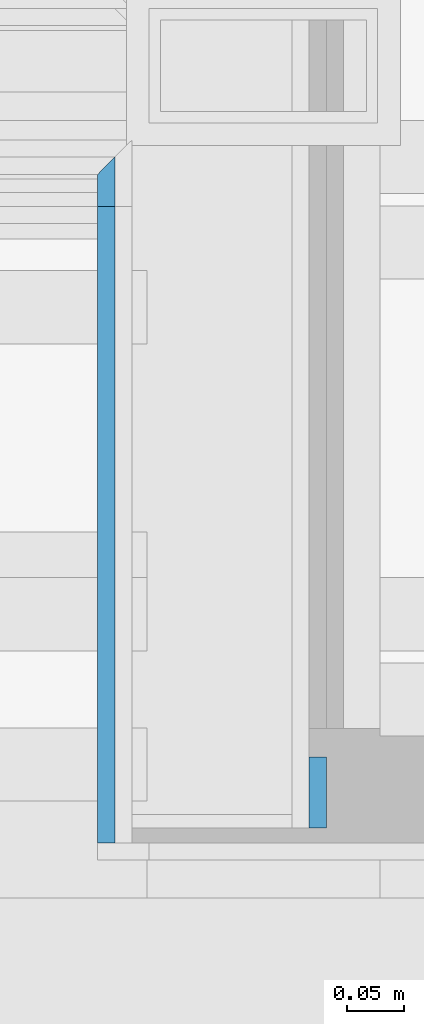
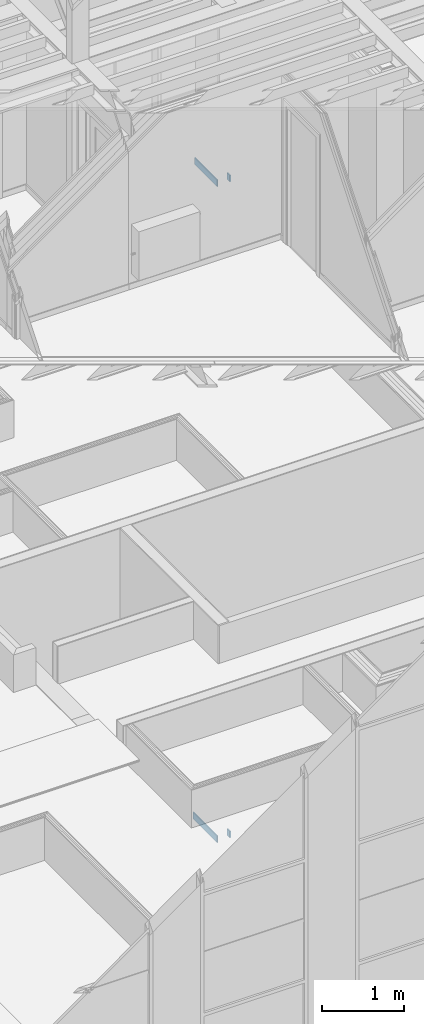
# One storey, part 67 of 183: 4 building element parts, 2 elements without a shape of their own.
"""IFC2X3 building model written with IfcOpenShell, lengths in metres."""

from ifc_helpers import new_model, entity, si_unit, converted_unit, derived_unit, money_unit, direction, frame, frame_2d, origin_with_axes, place, context, subcontext, project, spatial, polyline, rectangle, outline, extrude, material, type_object, element, aggregate, save


model = new_model("IFC2X3")

# Units and contexts
model_context = context("Model", 3, precision=1e-05, world=origin_with_axes(), true_north=direction((0.0, 1.0)))
body_context = subcontext(model_context, "Body", "Model", "MODEL_VIEW", scale=1.0)
ifc_project = project(units=[si_unit("LENGTHUNIT", "METRE"), si_unit("AREAUNIT", "SQUARE_METRE"), si_unit("VOLUMEUNIT", "CUBIC_METRE"), si_unit("ABSORBEDDOSEUNIT", "GRAY"), si_unit("AMOUNTOFSUBSTANCEUNIT", "MOLE"), si_unit("DOSEEQUIVALENTUNIT", "SIEVERT"), si_unit("ELECTRICCAPACITANCEUNIT", "FARAD"), si_unit("ELECTRICCHARGEUNIT", "COULOMB"), si_unit("ELECTRICCONDUCTANCEUNIT", "SIEMENS"), si_unit("ELECTRICCURRENTUNIT", "AMPERE"), si_unit("ELECTRICRESISTANCEUNIT", "OHM"), si_unit("ELECTRICVOLTAGEUNIT", "VOLT"), si_unit("ENERGYUNIT", "JOULE"), si_unit("FORCEUNIT", "NEWTON"), si_unit("FREQUENCYUNIT", "HERTZ"), si_unit("ILLUMINANCEUNIT", "LUX"), si_unit("INDUCTANCEUNIT", "HENRY"), si_unit("LUMINOUSFLUXUNIT", "LUMEN"), si_unit("LUMINOUSINTENSITYUNIT", "CANDELA"), si_unit("MAGNETICFLUXDENSITYUNIT", "TESLA"), si_unit("MAGNETICFLUXUNIT", "WEBER"), si_unit("MASSUNIT", "GRAM"), converted_unit("PLANEANGLEUNIT", "degree", entity("IfcReal", 0.0174532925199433), si_unit("PLANEANGLEUNIT", "RADIAN"), dimensions=[0, 0, 0, 0, 0, 0, 0]), si_unit("POWERUNIT", "WATT"), si_unit("PRESSUREUNIT", "PASCAL"), si_unit("RADIOACTIVITYUNIT", "BECQUEREL"), si_unit("SOLIDANGLEUNIT", "STERADIAN"), si_unit("THERMODYNAMICTEMPERATUREUNIT", "KELVIN"), si_unit("TIMEUNIT", "SECOND"), derived_unit("ACCELERATIONUNIT", [(si_unit("LENGTHUNIT", "METRE"), 1), (si_unit("TIMEUNIT", "SECOND"), -2)]), derived_unit("ANGULARVELOCITYUNIT", [(converted_unit("PLANEANGLEUNIT", "degree", entity("IfcReal", 0.0174532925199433), si_unit("PLANEANGLEUNIT", "RADIAN"), dimensions=[0, 0, 0, 0, 0, 0, 0]), 1), (si_unit("TIMEUNIT", "SECOND"), -1)]), derived_unit("CURVATUREUNIT", [(converted_unit("PLANEANGLEUNIT", "degree", entity("IfcReal", 0.0174532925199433), si_unit("PLANEANGLEUNIT", "RADIAN"), dimensions=[0, 0, 0, 0, 0, 0, 0]), 1), (si_unit("LENGTHUNIT", "METRE"), -1)]), derived_unit("DYNAMICVISCOSITYUNIT", [(si_unit("PRESSUREUNIT", "PASCAL"), 1), (si_unit("TIMEUNIT", "SECOND"), 1)]), derived_unit("HEATFLUXDENSITYUNIT", [(si_unit("POWERUNIT", "WATT"), 1), (si_unit("LENGTHUNIT", "METRE"), -2)]), derived_unit("HEATINGVALUEUNIT", [(si_unit("ENERGYUNIT", "JOULE"), 1), (si_unit("MASSUNIT", "GRAM"), -1)]), derived_unit("INTEGERCOUNTRATEUNIT", [(si_unit("TIMEUNIT", "SECOND"), -1)]), derived_unit("IONCONCENTRATIONUNIT", [(si_unit("MASSUNIT", "GRAM"), 1), (si_unit("VOLUMEUNIT", "CUBIC_METRE"), -1)]), derived_unit("ISOTHERMALMOISTURECAPACITYUNIT", [(si_unit("VOLUMEUNIT", "CUBIC_METRE"), 1), (si_unit("MASSUNIT", "GRAM"), -1)]), derived_unit("KINEMATICVISCOSITYUNIT", [(si_unit("AREAUNIT", "SQUARE_METRE"), 1), (si_unit("TIMEUNIT", "SECOND"), -1)]), derived_unit("LINEARFORCEUNIT", [(si_unit("FORCEUNIT", "NEWTON"), 1), (si_unit("LENGTHUNIT", "METRE"), -1)]), derived_unit("LINEARMOMENTUNIT", [(si_unit("FORCEUNIT", "NEWTON"), 1), (si_unit("LENGTHUNIT", "METRE"), -1)]), derived_unit("LINEARSTIFFNESSUNIT", [(si_unit("FORCEUNIT", "NEWTON"), 1), (si_unit("LENGTHUNIT", "METRE"), -1)]), derived_unit("LINEARVELOCITYUNIT", [(si_unit("LENGTHUNIT", "METRE"), 1), (si_unit("TIMEUNIT", "SECOND"), -1)]), derived_unit("LUMINOUSINTENSITYDISTRIBUTIONUNIT", [(si_unit("LUMINOUSINTENSITYUNIT", "CANDELA"), 1), (si_unit("LUMINOUSFLUXUNIT", "LUMEN"), -1)]), derived_unit("MASSDENSITYUNIT", [(si_unit("MASSUNIT", "GRAM"), 1), (si_unit("VOLUMEUNIT", "CUBIC_METRE"), -1)]), derived_unit("MASSFLOWRATEUNIT", [(si_unit("MASSUNIT", "GRAM"), 1), (si_unit("TIMEUNIT", "SECOND"), -1)]), derived_unit("MASSPERLENGTHUNIT", [(si_unit("MASSUNIT", "GRAM"), 1), (si_unit("LENGTHUNIT", "METRE"), -1)]), derived_unit("MODULUSOFELASTICITYUNIT", [(si_unit("FORCEUNIT", "NEWTON"), 1), (si_unit("AREAUNIT", "SQUARE_METRE"), -1)]), derived_unit("MODULUSOFLINEARSUBGRADEREACTIONUNIT", [(si_unit("FORCEUNIT", "NEWTON"), 1), (si_unit("LENGTHUNIT", "METRE"), -2)]), derived_unit("MODULUSOFROTATIONALSUBGRADEREACTIONUNIT", [(si_unit("FORCEUNIT", "NEWTON"), 1), (si_unit("LENGTHUNIT", "METRE"), 1)]), derived_unit("MODULUSOFSUBGRADEREACTIONUNIT", [(si_unit("FORCEUNIT", "NEWTON"), 1), (si_unit("VOLUMEUNIT", "CUBIC_METRE"), -1)]), derived_unit("MOISTUREDIFFUSIVITYUNIT", [(si_unit("VOLUMEUNIT", "CUBIC_METRE"), 1), (si_unit("TIMEUNIT", "SECOND"), -1)]), derived_unit("MOLECULARWEIGHTUNIT", [(si_unit("MASSUNIT", "GRAM"), 1), (si_unit("AMOUNTOFSUBSTANCEUNIT", "MOLE"), -1)]), derived_unit("PLANARFORCEUNIT", [(si_unit("FORCEUNIT", "NEWTON"), 1), (si_unit("LENGTHUNIT", "METRE"), -2)]), derived_unit("ROTATIONALFREQUENCYUNIT", [(si_unit("TIMEUNIT", "SECOND"), -1)]), derived_unit("ROTATIONALMASSUNIT", [(si_unit("MASSUNIT", "GRAM"), 1), (si_unit("LENGTHUNIT", "METRE"), 2)]), derived_unit("ROTATIONALSTIFFNESSUNIT", [(si_unit("FORCEUNIT", "NEWTON"), 1), (si_unit("LENGTHUNIT", "METRE"), 1), (converted_unit("PLANEANGLEUNIT", "degree", entity("IfcReal", 0.0174532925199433), si_unit("PLANEANGLEUNIT", "RADIAN"), dimensions=[0, 0, 0, 0, 0, 0, 0]), -1)]), derived_unit("SECTIONAREAINTEGRALUNIT", [(si_unit("LENGTHUNIT", "METRE"), 5)]), derived_unit("SECTIONMODULUSUNIT", [(si_unit("LENGTHUNIT", "METRE"), 3)]), derived_unit("SHEARMODULUSUNIT", [(si_unit("FORCEUNIT", "NEWTON"), 1), (si_unit("AREAUNIT", "SQUARE_METRE"), -1)]), derived_unit("SOUNDPOWERUNIT", [(si_unit("ENERGYUNIT", "JOULE"), 1), (si_unit("TIMEUNIT", "SECOND"), -1)]), derived_unit("SPECIFICHEATCAPACITYUNIT", [(si_unit("FORCEUNIT", "NEWTON"), 1), (si_unit("MASSUNIT", "GRAM"), -1), (si_unit("THERMODYNAMICTEMPERATUREUNIT", "KELVIN"), -1)]), derived_unit("TEMPERATUREGRADIENTUNIT", [(si_unit("THERMODYNAMICTEMPERATUREUNIT", "KELVIN"), 1), (si_unit("LENGTHUNIT", "METRE"), -1)]), derived_unit("THERMALADMITTANCEUNIT", [(si_unit("POWERUNIT", "WATT"), 1), (si_unit("AREAUNIT", "SQUARE_METRE"), -1), (si_unit("THERMODYNAMICTEMPERATUREUNIT", "KELVIN"), -1)]), derived_unit("THERMALCONDUCTANCEUNIT", [(si_unit("POWERUNIT", "WATT"), 1), (si_unit("LENGTHUNIT", "METRE"), -1), (si_unit("THERMODYNAMICTEMPERATUREUNIT", "KELVIN"), -1)]), derived_unit("THERMALEXPANSIONCOEFFICIENTUNIT", [(si_unit("THERMODYNAMICTEMPERATUREUNIT", "KELVIN"), -1)]), derived_unit("THERMALRESISTANCEUNIT", [(si_unit("AREAUNIT", "SQUARE_METRE"), 1), (si_unit("POWERUNIT", "WATT"), -1)]), derived_unit("THERMALTRANSMITTANCEUNIT", [(si_unit("POWERUNIT", "WATT"), 1), (si_unit("AREAUNIT", "SQUARE_METRE"), -1), (si_unit("THERMODYNAMICTEMPERATUREUNIT", "KELVIN"), -1)]), derived_unit("TORQUEUNIT", [(si_unit("FORCEUNIT", "NEWTON"), 1), (si_unit("LENGTHUNIT", "METRE"), 1)]), derived_unit("VAPORPERMEABILITYUNIT", [(si_unit("MASSUNIT", "GRAM"), 1), (si_unit("TIMEUNIT", "SECOND"), -1)]), derived_unit("VOLUMETRICFLOWRATEUNIT", [(si_unit("VOLUMEUNIT", "CUBIC_METRE"), 1), (si_unit("TIMEUNIT", "SECOND"), -1)]), derived_unit("WARPINGCONSTANTUNIT", [(si_unit("LENGTHUNIT", "METRE"), 6)]), derived_unit("WARPINGMOMENTUNIT", [(si_unit("FORCEUNIT", "NEWTON"), 1), (si_unit("LENGTHUNIT", "METRE"), 2)]), money_unit("GBP")], contexts=[model_context])

# Site, building, storey
site_placement = place(None, origin_with_axes())
site = spatial("IfcSite", under=ifc_project, at=site_placement, Name="Site", CompositionType="ELEMENT")
building_placement = place(site_placement, origin_with_axes())
building = spatial("IfcBuilding", under=site, at=building_placement, Name="Building01", CompositionType="ELEMENT")
storey_placement = place(building_placement, frame((0.0, 0.0, 5.15), z_axis=(0.0, 0.0, 1.0), x_axis=(1.0, 0.0, 0.0)))
storey = spatial("IfcBuildingStorey", under=building, at=storey_placement, Name="1F", CompositionType="ELEMENT", Elevation=5.15)

# Wall, building element parts
wall_type = type_object("IfcWallType", Name="SHE_A-Walls_Type03a_BlockworkWall_170mm", PredefinedType="NOTDEFINED")
wall_1_placement = place(storey_placement, frame((11.145, 6.275, 0.0), z_axis=(0.0, 0.0, 1.0), x_axis=(0.0, 1.0, 0.0)))
wall_1 = element("IfcWall", 1, at=wall_1_placement, inside=storey, type_object=wall_type, Name="4B", ObjectType="SHE_A-Walls_Type03a_BlockworkWall_170mm")
ifc_material = material(Name="A_BSUK_Walls_Timber")
placement_1 = place(wall_1_placement, origin_with_axes())
building_element_part_1 = element("IfcBuildingElementPart", 2, at=placement_1, material=ifc_material, Name="1", context=body_context, shape_type="SweptSolid", body=[
    extrude(rectangle(XDim=0.062, YDim=0.015, at=frame_2d((0.019, -0.1625), x_axis=(-1.0, 0.0))), frame((0.0, 0.0, 0.015), z_axis=(0.0, 0.0, 1.0), x_axis=(1.0, 0.0, 0.0)), (0.0, 0.0, 1.0), 0.1),
])
building_element_part_2 = element("IfcBuildingElementPart", 3, at=placement_1, material=ifc_material, Name="6", context=body_context, shape_type="SweptSolid", body=[
    extrude(outline(polyline([(0.56, 0.03), (-0.025, 0.03), (-0.025, 0.015), (0.575, 0.015), (0.56, 0.03)])), frame((0.0, 0.0, 0.015), z_axis=(0.0, 0.0, 1.0), x_axis=(1.0, 0.0, 0.0)), (0.0, 0.0, 1.0), 0.1),
])
aggregate(wall_1, [building_element_part_1, building_element_part_2])

wall_2_placement = place(storey_placement, frame((11.145, 6.263, 9.78), z_axis=(0.0, 0.0, 1.0), x_axis=(0.0, 1.0, 0.0)))
wall_2 = element("IfcWall", 4, at=wall_2_placement, inside=storey, type_object=wall_type, Name="4B", ObjectType="SHE_A-Walls_Type03a_BlockworkWall_170mm")
placement_2 = place(wall_2_placement, origin_with_axes())
building_element_part_3 = element("IfcBuildingElementPart", 5, at=placement_2, material=ifc_material, Name="1", context=body_context, shape_type="SweptSolid", body=[
    extrude(rectangle(XDim=0.062, YDim=0.015, at=frame_2d((0.031, -0.1625), x_axis=(-1.0, 0.0))), frame((0.0, 0.0, 0.015), z_axis=(0.0, 0.0, 1.0), x_axis=(1.0, 0.0, 0.0)), (0.0, 0.0, 1.0), 0.1),
])
building_element_part_4 = element("IfcBuildingElementPart", 6, at=placement_2, material=ifc_material, Name="6", context=body_context, shape_type="SweptSolid", body=[
    extrude(rectangle(XDim=0.557, YDim=0.015, at=frame_2d((0.2655, 0.0225), x_axis=(-1.0, 0.0))), frame((0.0, 0.0, 0.015), z_axis=(0.0, 0.0, 1.0), x_axis=(1.0, 0.0, 0.0)), (0.0, 0.0, 1.0), 0.1),
])
aggregate(wall_2, [building_element_part_3, building_element_part_4])

save(model, "model.ifc")
